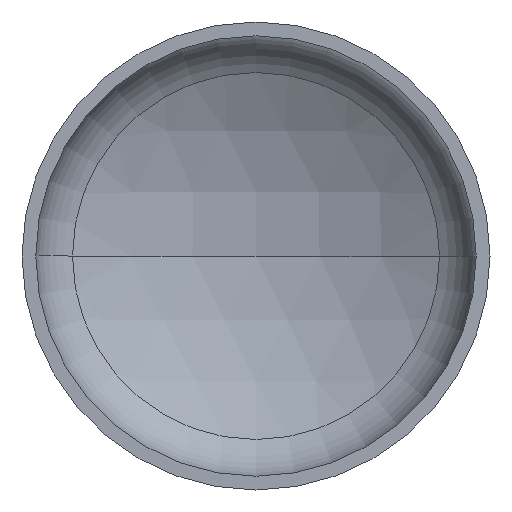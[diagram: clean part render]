
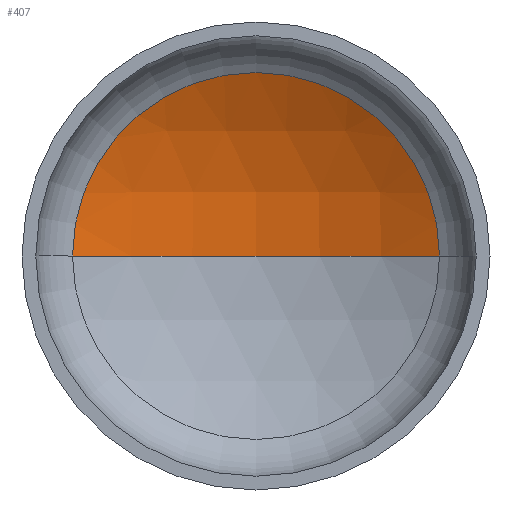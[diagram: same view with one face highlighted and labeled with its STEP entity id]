
A CAD part, front view. The second image highlights one B-rep face of the part: STEP entity #407.
In plain terms, the highlighted spherical face has radius 3200 mm.
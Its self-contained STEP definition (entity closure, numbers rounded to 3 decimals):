
#13 = DIRECTION ( 'NONE',  ( 0., 0., -1. ) ) ;
#14 = DIRECTION ( 'NONE',  ( 0., 0., 1. ) ) ;
#16 = CARTESIAN_POINT ( 'NONE',  ( 0., -2178.206, 0. ) ) ;
#38 = EDGE_LOOP ( 'NONE', ( #113, #54, #68 ) ) ;
#43 = AXIS2_PLACEMENT_3D ( 'NONE', #16, #14, #129 ) ;
#46 = AXIS2_PLACEMENT_3D ( 'NONE', #135, #13, #230 ) ;
#48 = AXIS2_PLACEMENT_3D ( 'NONE', #212, #218, #209 ) ;
#54 = ORIENTED_EDGE ( 'NONE', *, *, #117, .T. ) ;
#67 = CIRCLE ( 'NONE', #46, 3200. ) ;
#68 = ORIENTED_EDGE ( 'NONE', *, *, #96, .T. ) ;
#69 = VERTEX_POINT ( 'NONE', #330 ) ;
#89 = FACE_OUTER_BOUND ( 'NONE', #38, .T. ) ;
#96 = EDGE_CURVE ( 'NONE', #137, #163, #192, .T. ) ;
#113 = ORIENTED_EDGE ( 'NONE', *, *, #122, .F. ) ;
#117 = EDGE_CURVE ( 'NONE', #69, #137, #67, .T. ) ;
#122 = EDGE_CURVE ( 'NONE', #69, #163, #370, .T. ) ;
#129 = DIRECTION ( 'NONE',  ( 1., 0., 0. ) ) ;
#135 = CARTESIAN_POINT ( 'NONE',  ( 0., -2178.206, 0. ) ) ;
#137 = VERTEX_POINT ( 'NONE', #349 ) ;
#163 = VERTEX_POINT ( 'NONE', #373 ) ;
#185 = DIRECTION ( 'NONE',  ( 0., 0., -1. ) ) ;
#192 = CIRCLE ( 'NONE', #48, 1568.433 ) ;
#209 = DIRECTION ( 'NONE',  ( 1., 0., 0. ) ) ;
#212 = CARTESIAN_POINT ( 'NONE',  ( 0., 611.062, 0. ) ) ;
#218 = DIRECTION ( 'NONE',  ( 0., -1., 0. ) ) ;
#230 = DIRECTION ( 'NONE',  ( -1., 0., 0. ) ) ;
#303 = CARTESIAN_POINT ( 'NONE',  ( 0., -2178.206, 0. ) ) ;
#330 = CARTESIAN_POINT ( 'NONE',  ( 0., 1021.794, 0. ) ) ;
#348 = AXIS2_PLACEMENT_3D ( 'NONE', #303, #185, #359 ) ;
#349 = CARTESIAN_POINT ( 'NONE',  ( 1568.433, 611.062, 0. ) ) ;
#359 = DIRECTION ( 'NONE',  ( -1., 0., 0. ) ) ;
#370 = CIRCLE ( 'NONE', #43, 3200. ) ;
#373 = CARTESIAN_POINT ( 'NONE',  ( -1568.433, 611.062, 0. ) ) ;
#381 = SPHERICAL_SURFACE ( 'NONE', #348, 3200. ) ;
#407 = ADVANCED_FACE ( 'NONE', ( #89 ), #381, .F. ) ;
